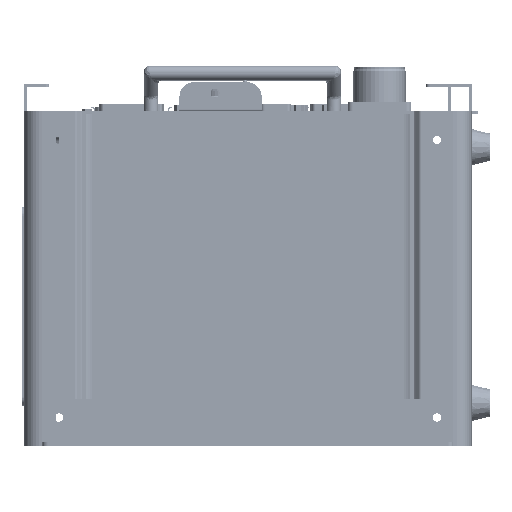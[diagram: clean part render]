
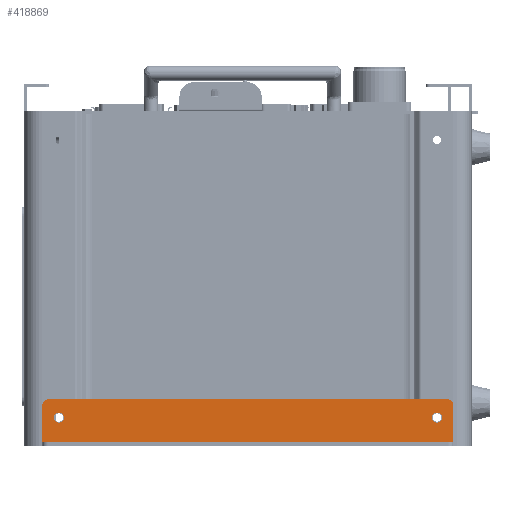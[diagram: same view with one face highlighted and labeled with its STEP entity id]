
A CAD part, left-side view. The second image highlights one B-rep face of the part: STEP entity #418869.
In plain terms, the highlighted planar face has unit normal (-1, 0, 0).
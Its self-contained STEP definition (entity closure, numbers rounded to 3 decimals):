
#418434=DIRECTION('',(0.,0.,1.));
#418435=VECTOR('',#418434,20.6);
#418436=CARTESIAN_POINT('',(19.5,0.,2.));
#418437=LINE('',#418436,#418435);
#418438=CARTESIAN_POINT('',(19.5,216.,15.6));
#418439=DIRECTION('',(-1.,0.,0.));
#418440=DIRECTION('',(0.,0.,1.));
#418441=AXIS2_PLACEMENT_3D('',#418438,#418439,#418440);
#418443=CARTESIAN_POINT('',(19.5,216.,15.6));
#418444=DIRECTION('',(-1.,0.,0.));
#418445=DIRECTION('',(0.,0.,-1.));
#418446=AXIS2_PLACEMENT_3D('',#418443,#418444,#418445);
#418448=CARTESIAN_POINT('',(19.5,9.,15.6));
#418449=DIRECTION('',(-1.,0.,0.));
#418450=DIRECTION('',(0.,0.,1.));
#418451=AXIS2_PLACEMENT_3D('',#418448,#418449,#418450);
#418453=CARTESIAN_POINT('',(19.5,9.,15.6));
#418454=DIRECTION('',(-1.,0.,0.));
#418455=DIRECTION('',(0.,0.,-1.));
#418456=AXIS2_PLACEMENT_3D('',#418453,#418454,#418455);
#418458=CARTESIAN_POINT('',(19.5,222.,22.6));
#418459=DIRECTION('',(-1.,0.,0.));
#418460=DIRECTION('',(0.,0.,1.));
#418461=AXIS2_PLACEMENT_3D('',#418458,#418459,#418460);
#418463=CARTESIAN_POINT('',(19.5,3.,22.6));
#418464=DIRECTION('',(-1.,0.,0.));
#418465=DIRECTION('',(0.,-1.,0.));
#418466=AXIS2_PLACEMENT_3D('',#418463,#418464,#418465);
#418468=DIRECTION('',(0.,1.,0.));
#418469=VECTOR('',#418468,225.);
#418470=CARTESIAN_POINT('',(19.5,0.,2.));
#418471=LINE('',#418470,#418469);
#418534=DIRECTION('',(0.,1.,0.));
#418535=VECTOR('',#418534,219.);
#418536=CARTESIAN_POINT('',(19.5,3.,25.6));
#418537=LINE('',#418536,#418535);
#418559=DIRECTION('',(0.,0.,1.));
#418560=VECTOR('',#418559,20.6);
#418561=CARTESIAN_POINT('',(19.5,225.,2.));
#418562=LINE('',#418561,#418560);
#418711=CARTESIAN_POINT('',(19.5,0.,2.));
#418712=CARTESIAN_POINT('',(19.5,225.,2.));
#418713=VERTEX_POINT('',#418711);
#418714=VERTEX_POINT('',#418712);
#418747=CARTESIAN_POINT('',(19.5,216.,18.35));
#418748=CARTESIAN_POINT('',(19.5,216.,12.85));
#418749=VERTEX_POINT('',#418747);
#418750=VERTEX_POINT('',#418748);
#418751=CARTESIAN_POINT('',(19.5,9.,18.35));
#418752=CARTESIAN_POINT('',(19.5,9.,12.85));
#418753=VERTEX_POINT('',#418751);
#418754=VERTEX_POINT('',#418752);
#418783=CARTESIAN_POINT('',(19.5,222.,25.6));
#418784=VERTEX_POINT('',#418783);
#418785=CARTESIAN_POINT('',(19.5,225.,22.6));
#418786=VERTEX_POINT('',#418785);
#418787=CARTESIAN_POINT('',(19.5,0.,22.6));
#418788=CARTESIAN_POINT('',(19.5,3.,25.6));
#418789=VERTEX_POINT('',#418787);
#418790=VERTEX_POINT('',#418788);
#418840=CARTESIAN_POINT('',(19.5,0.,2.));
#418841=DIRECTION('',(-1.,0.,0.));
#418842=DIRECTION('',(0.,0.,1.));
#418843=AXIS2_PLACEMENT_3D('',#418840,#418841,#418842);
#418844=PLANE('',#418843);
#418846=ORIENTED_EDGE('',*,*,#418845,.F.);
#418848=ORIENTED_EDGE('',*,*,#418847,.F.);
#418849=ORIENTED_EDGE('',*,*,#418830,.F.);
#418850=ORIENTED_EDGE('',*,*,#418820,.F.);
#418852=ORIENTED_EDGE('',*,*,#418851,.T.);
#418854=ORIENTED_EDGE('',*,*,#418853,.T.);
#418855=EDGE_LOOP('',(#418846,#418848,#418849,#418850,#418852,#418854));
#418856=FACE_OUTER_BOUND('',#418855,.F.);
#418858=ORIENTED_EDGE('',*,*,#418857,.T.);
#418860=ORIENTED_EDGE('',*,*,#418859,.T.);
#418861=EDGE_LOOP('',(#418858,#418860));
#418862=FACE_BOUND('',#418861,.F.);
#418864=ORIENTED_EDGE('',*,*,#418863,.T.);
#418866=ORIENTED_EDGE('',*,*,#418865,.T.);
#418867=EDGE_LOOP('',(#418864,#418866));
#418868=FACE_BOUND('',#418867,.F.);
#418869=ADVANCED_FACE('',(#418856,#418862,#418868),#418844,.T.);
#418442=CIRCLE('',#418441,2.75);
#418447=CIRCLE('',#418446,2.75);
#418452=CIRCLE('',#418451,2.75);
#418457=CIRCLE('',#418456,2.75);
#418462=CIRCLE('',#418461,3.);
#418467=CIRCLE('',#418466,3.);
#418820=EDGE_CURVE('',#418713,#418789,#418437,.T.);
#418830=EDGE_CURVE('',#418789,#418790,#418467,.T.);
#418845=EDGE_CURVE('',#418784,#418786,#418462,.T.);
#418847=EDGE_CURVE('',#418790,#418784,#418537,.T.);
#418851=EDGE_CURVE('',#418713,#418714,#418471,.T.);
#418853=EDGE_CURVE('',#418714,#418786,#418562,.T.);
#418857=EDGE_CURVE('',#418749,#418750,#418442,.T.);
#418859=EDGE_CURVE('',#418750,#418749,#418447,.T.);
#418863=EDGE_CURVE('',#418753,#418754,#418452,.T.);
#418865=EDGE_CURVE('',#418754,#418753,#418457,.T.);
